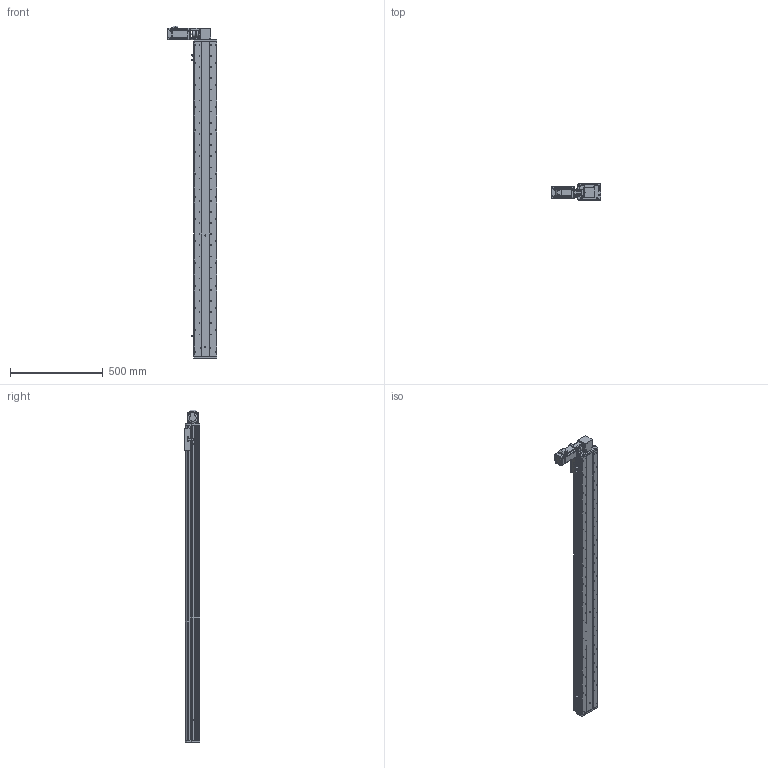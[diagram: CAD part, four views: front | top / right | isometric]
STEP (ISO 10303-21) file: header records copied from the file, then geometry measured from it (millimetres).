
FILE_DESCRIPTION (( 'STEP AP214' ), '1' );
FILE_NAME ('KSD125B-S1500-MRT-CM.STEP', '2017-08-07T07:47:30', ( '微软用户' ), ( '微软中国' ), 'SwSTEP 2.0', 'SolidWorks 2014', '' );
FILE_SCHEMA (( 'AUTOMOTIVE_DESIGN' ));
Length unit declared in the file: millimetre
Products named in the file (16): MHMD042G1CA_2_03; KSD125模组同步带-防撞垫2; CS-34X32-10X14; 100遵鎮湛假蚾啣1 ; 覜茼え68遵圉猾敕; U倰嫖萇假蚾璃; U倰嫖萇EEㄜSX672; KSD125模组同步带-防撞垫1; 100宽安装板同步带带电机座400W,86; 100宽马达安装板同步带右; 前端板-125宽模组同步带; 125模组同步带-尾端板1; KSD125模组同步带-滑动座1; KSD125B-S1500-MRT-CM; KSD125模组1500行程同步带-防尘盖; 125模组1500行程同步带-底板
Assembly tree (19 placements, depth 2):
  KSD125B-S1500-MRT-CM
    KSD125模组同步带-滑动座1
    125模组同步带-尾端板1
    前端板-125宽模组同步带
    100宽马达安装板同步带右
    100宽安装板同步带带电机座400W,86
    KSD125模组同步带-防撞垫1
    U倰嫖萇EEㄜSX672  x3
    U倰嫖萇假蚾璃  x3
    覜茼え68遵圉猾敕
    100遵鎮湛假蚾啣1 
    CS-34X32-10X14
    KSD125模组同步带-防撞垫2
    MHMD042G1CA_2_03
    125模组1500行程同步带-底板
    KSD125模组1500行程同步带-防尘盖
Bounding box: 269 x 86 x 1789 mm (x, y, z)
Volume: 5241980.3 mm3; surface area: 1709721 mm2
Topology: 18 solids, 21 shells, 1796 faces, 5164 edges, 3408 vertices
Faces by surface type: cylinder 977, plane 716, cone 81, bspline 22
Entity records: 63792 total; most frequent: CARTESIAN_POINT 12842, DIRECTION 9363, ORIENTED_EDGE 8848, EDGE_CURVE 4502, AXIS2_PLACEMENT_3D 3513, VERTEX_POINT 3000, LINE 2337, VECTOR 2337
